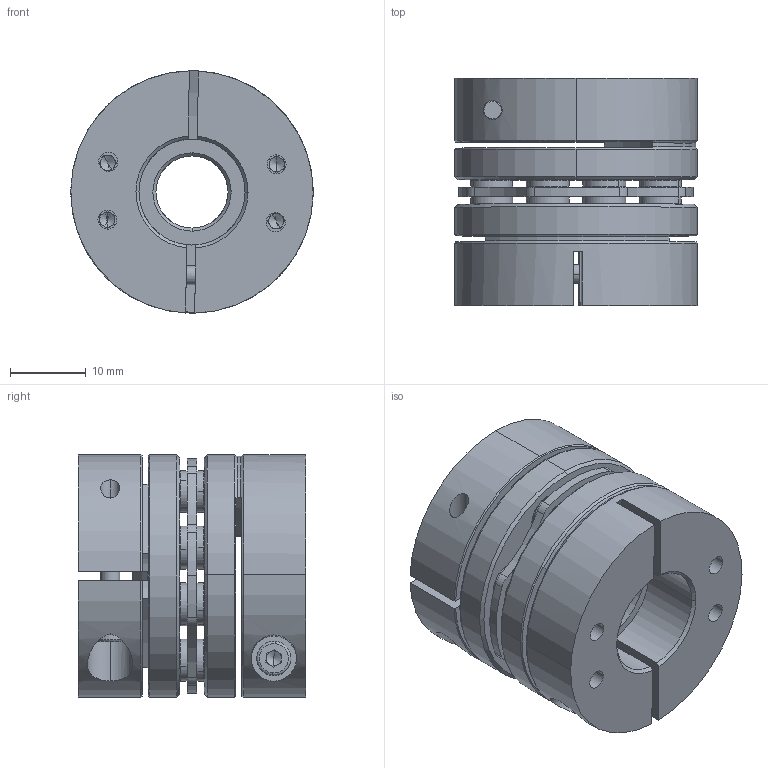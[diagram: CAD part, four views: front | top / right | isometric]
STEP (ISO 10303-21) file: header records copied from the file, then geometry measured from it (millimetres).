
FILE_DESCRIPTION (( 'STEP AP203' ), '1' );
FILE_NAME ('LDG-32-B1-9.525-14.STEP', '2021-10-28T05:14:32', ( '' ), ( '' ), 'SwSTEP 2.0', 'SolidWorks 2018', '' );
FILE_SCHEMA (( 'CONFIG_CONTROL_DESIGN' ));
Length unit declared in the file: millimetre
Products named in the file (2): 錨璃5^LDG-32蚾饜芞1; LDG-32-B1-9.525-14
Assembly tree (1 placements, depth 2):
  LDG-32-B1-9.525-14
    錨璃5^LDG-32蚾饜芞1
Bounding box: 32 x 30 x 32 mm (x, y, z)
Volume: 17050.9 mm3; surface area: 13065.3 mm2
Topology: 1 solids, 11 shells, 795 faces, 1967 edges, 1216 vertices
Faces by surface type: cylinder 301, plane 244, cone 230, torus 20
Entity records: 24191 total; most frequent: CARTESIAN_POINT 4472, DIRECTION 4465, ORIENTED_EDGE 3878, EDGE_CURVE 1939, AXIS2_PLACEMENT_3D 1819, VERTEX_POINT 1216, CIRCLE 1020, EDGE_LOOP 939
